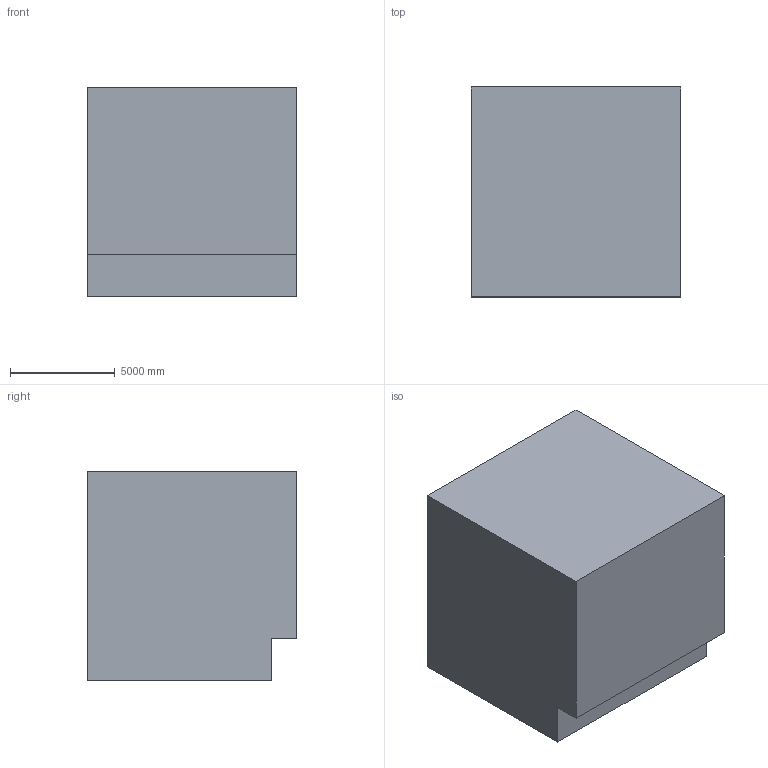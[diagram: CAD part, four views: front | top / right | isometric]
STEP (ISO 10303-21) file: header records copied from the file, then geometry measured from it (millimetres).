
FILE_DESCRIPTION (( 'STEP AP203' ), '1' );
FILE_NAME ('427.STEP', '2022-07-29T11:14:17', ( 'user' ), ( '' ), 'SwSTEP 2.0', 'SolidWorks 2021', '' );
FILE_SCHEMA (( 'CONFIG_CONTROL_DESIGN' ));
Length unit declared in the file: centimetre
Products named in the file (1): 427
Bounding box: 10000 x 10000 x 10000 mm (x, y, z)
Volume: 917935347051.7 mm3; surface area: 681577328.4 mm2
Topology: 1 solids, 1 shells, 26 faces, 69 edges, 46 vertices
Faces by surface type: plane 20, cylinder 6
Entity records: 890 total; most frequent: CARTESIAN_POINT 142, DIRECTION 139, ORIENTED_EDGE 138, EDGE_CURVE 69, VECTOR 53, LINE 53, VERTEX_POINT 46, AXIS2_PLACEMENT_3D 43
